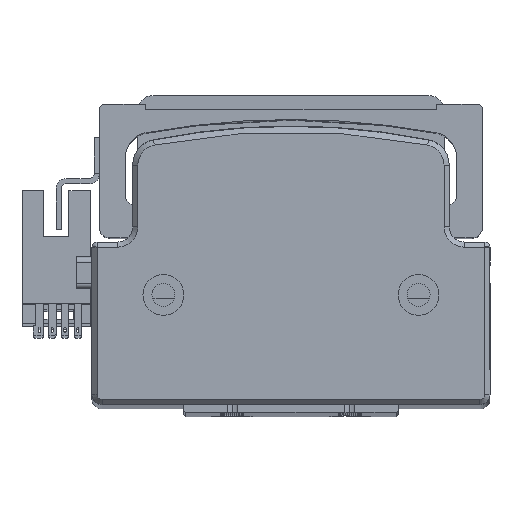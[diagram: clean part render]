
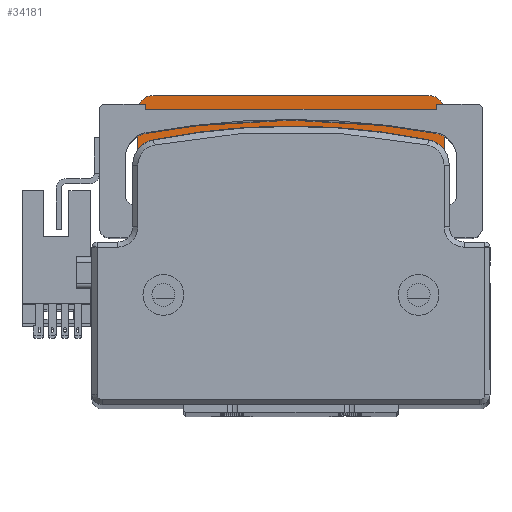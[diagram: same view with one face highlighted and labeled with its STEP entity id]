
A CAD part, top view. The second image highlights one B-rep face of the part: STEP entity #34181.
In plain terms, the highlighted planar face has unit normal (0, 0, 1) as drawn and (0, 0, -1) by its records, which use the part's own axes.
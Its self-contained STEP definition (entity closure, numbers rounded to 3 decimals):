
#57 = VECTOR ( 'NONE', #29988, 1000. ) ;
#118 = ORIENTED_EDGE ( 'NONE', *, *, #7711, .F. ) ;
#782 = LINE ( 'NONE', #31894, #28355 ) ;
#1184 = AXIS2_PLACEMENT_3D ( 'NONE', #35274, #13839, #38970 ) ;
#1301 = DIRECTION ( 'NONE',  ( -1., 0., 0. ) ) ;
#1765 = DIRECTION ( 'NONE',  ( 0., 0., -1. ) ) ;
#2041 = VERTEX_POINT ( 'NONE', #44358 ) ;
#2060 = DIRECTION ( 'NONE',  ( -1., 0., 0. ) ) ;
#2608 = DIRECTION ( 'NONE',  ( 1., 0., 0. ) ) ;
#2926 = VERTEX_POINT ( 'NONE', #44649 ) ;
#3503 = VECTOR ( 'NONE', #7310, 1000. ) ;
#3684 = VERTEX_POINT ( 'NONE', #19969 ) ;
#3685 = AXIS2_PLACEMENT_3D ( 'NONE', #7430, #32608, #11076 ) ;
#4707 = EDGE_CURVE ( 'NONE', #3684, #12320, #28783, .T. ) ;
#5129 = CIRCLE ( 'NONE', #27933, 3. ) ;
#5386 = ORIENTED_EDGE ( 'NONE', *, *, #11981, .T. ) ;
#5464 = DIRECTION ( 'NONE',  ( 0., -1., 0. ) ) ;
#5802 = CARTESIAN_POINT ( 'NONE',  ( 27., 30., 44. ) ) ;
#5871 = CARTESIAN_POINT ( 'NONE',  ( 26.399, 24.749, 44. ) ) ;
#5902 = FACE_BOUND ( 'NONE', #27864, .T. ) ;
#6269 = CARTESIAN_POINT ( 'NONE',  ( -27., 27., 44. ) ) ;
#6876 = ORIENTED_EDGE ( 'NONE', *, *, #43862, .T. ) ;
#7149 = EDGE_CURVE ( 'NONE', #27150, #45594, #13866, .T. ) ;
#7310 = DIRECTION ( 'NONE',  ( 0., 1., 0. ) ) ;
#7430 = CARTESIAN_POINT ( 'NONE',  ( 24.749, 24.749, 44. ) ) ;
#7711 = EDGE_CURVE ( 'NONE', #38582, #13733, #782, .T. ) ;
#7745 = VERTEX_POINT ( 'NONE', #32219 ) ;
#7807 = AXIS2_PLACEMENT_3D ( 'NONE', #9310, #34449, #12965 ) ;
#8323 = AXIS2_PLACEMENT_3D ( 'NONE', #6269, #31415, #9882 ) ;
#9082 = CARTESIAN_POINT ( 'NONE',  ( -30., -30., 44. ) ) ;
#9181 = ORIENTED_EDGE ( 'NONE', *, *, #20064, .F. ) ;
#9310 = CARTESIAN_POINT ( 'NONE',  ( -24.749, 24.749, 44. ) ) ;
#9882 = DIRECTION ( 'NONE',  ( 1., 0., 0. ) ) ;
#10523 = ORIENTED_EDGE ( 'NONE', *, *, #4707, .F. ) ;
#10833 = ORIENTED_EDGE ( 'NONE', *, *, #7149, .F. ) ;
#11042 = EDGE_CURVE ( 'NONE', #2041, #38607, #38425, .T. ) ;
#11076 = DIRECTION ( 'NONE',  ( 1., 0., 0. ) ) ;
#11981 = EDGE_CURVE ( 'NONE', #14632, #12320, #41775, .T. ) ;
#12320 = VERTEX_POINT ( 'NONE', #34036 ) ;
#12965 = DIRECTION ( 'NONE',  ( 1., 0., 0. ) ) ;
#13249 = FACE_BOUND ( 'NONE', #14855, .T. ) ;
#13551 = CARTESIAN_POINT ( 'NONE',  ( -39.764, 17., 44. ) ) ;
#13652 = ORIENTED_EDGE ( 'NONE', *, *, #28522, .F. ) ;
#13733 = VERTEX_POINT ( 'NONE', #17178 ) ;
#13839 = DIRECTION ( 'NONE',  ( 0., 0., -1. ) ) ;
#13866 = CIRCLE ( 'NONE', #7807, 1.65 ) ;
#13882 = DIRECTION ( 'NONE',  ( 0., 1., 0. ) ) ;
#13945 = CARTESIAN_POINT ( 'NONE',  ( 0., 0., 44. ) ) ;
#14632 = VERTEX_POINT ( 'NONE', #42797 ) ;
#14855 = EDGE_LOOP ( 'NONE', ( #26544, #15234 ) ) ;
#15234 = ORIENTED_EDGE ( 'NONE', *, *, #40952, .F. ) ;
#16681 = DIRECTION ( 'NONE',  ( 0., 0., -1. ) ) ;
#16897 = EDGE_CURVE ( 'NONE', #31252, #14632, #44099, .T. ) ;
#17178 = CARTESIAN_POINT ( 'NONE',  ( 30., 27., 44. ) ) ;
#17438 = LINE ( 'NONE', #24278, #36480 ) ;
#17587 = DIRECTION ( 'NONE',  ( -1., 0., 0. ) ) ;
#18564 = EDGE_CURVE ( 'NONE', #43504, #2926, #35413, .T. ) ;
#19173 = DIRECTION ( 'NONE',  ( 0., 0., 1. ) ) ;
#19378 = CARTESIAN_POINT ( 'NONE',  ( 19., -30., 44. ) ) ;
#19969 = CARTESIAN_POINT ( 'NONE',  ( -27., 17., 44. ) ) ;
#20064 = EDGE_CURVE ( 'NONE', #45594, #27150, #45262, .T. ) ;
#20239 = CIRCLE ( 'NONE', #25967, 3. ) ;
#20741 = EDGE_CURVE ( 'NONE', #2041, #27297, #45710, .T. ) ;
#21657 = EDGE_CURVE ( 'NONE', #3684, #38607, #5129, .T. ) ;
#21728 = CARTESIAN_POINT ( 'NONE',  ( -19., 30., 44. ) ) ;
#22812 = PLANE ( 'NONE',  #28717 ) ;
#22845 = CARTESIAN_POINT ( 'NONE',  ( -39.764, 17., 44. ) ) ;
#22957 = DIRECTION ( 'NONE',  ( 0., 0., -1. ) ) ;
#23437 = CARTESIAN_POINT ( 'NONE',  ( 27., 27., 44. ) ) ;
#23732 = DIRECTION ( 'NONE',  ( 0., 0., 1. ) ) ;
#24187 = CARTESIAN_POINT ( 'NONE',  ( -26.399, 24.749, 44. ) ) ;
#24278 = CARTESIAN_POINT ( 'NONE',  ( 19., 30., 44. ) ) ;
#24410 = EDGE_LOOP ( 'NONE', ( #5386, #10523, #27454, #43121, #27901, #42475, #39644, #118, #6876, #13652, #29906, #41057 ) ) ;
#24782 = AXIS2_PLACEMENT_3D ( 'NONE', #13945, #39072, #17587 ) ;
#24805 = VECTOR ( 'NONE', #35007, 1000. ) ;
#25672 = LINE ( 'NONE', #28139, #34059 ) ;
#25967 = AXIS2_PLACEMENT_3D ( 'NONE', #23437, #1765, #26972 ) ;
#26544 = ORIENTED_EDGE ( 'NONE', *, *, #18564, .F. ) ;
#26948 = CARTESIAN_POINT ( 'NONE',  ( -30., 14., 44. ) ) ;
#26972 = DIRECTION ( 'NONE',  ( 1., 0., 0. ) ) ;
#27029 = EDGE_CURVE ( 'NONE', #45296, #13733, #20239, .T. ) ;
#27150 = VERTEX_POINT ( 'NONE', #24187 ) ;
#27297 = VERTEX_POINT ( 'NONE', #28652 ) ;
#27440 = CARTESIAN_POINT ( 'NONE',  ( 19., 17., 44. ) ) ;
#27454 = ORIENTED_EDGE ( 'NONE', *, *, #21657, .T. ) ;
#27864 = EDGE_LOOP ( 'NONE', ( #9181, #10833 ) ) ;
#27901 = ORIENTED_EDGE ( 'NONE', *, *, #20741, .T. ) ;
#27933 = AXIS2_PLACEMENT_3D ( 'NONE', #45152, #23732, #2060 ) ;
#28139 = CARTESIAN_POINT ( 'NONE',  ( 19., 30., 44. ) ) ;
#28355 = VECTOR ( 'NONE', #13882, 1000. ) ;
#28522 = EDGE_CURVE ( 'NONE', #45823, #7745, #42722, .T. ) ;
#28652 = CARTESIAN_POINT ( 'NONE',  ( -27., 30., 44. ) ) ;
#28717 = AXIS2_PLACEMENT_3D ( 'NONE', #19378, #22957, #1301 ) ;
#28783 = LINE ( 'NONE', #22845, #57 ) ;
#29359 = AXIS2_PLACEMENT_3D ( 'NONE', #40628, #19173, #44177 ) ;
#29906 = ORIENTED_EDGE ( 'NONE', *, *, #46578, .T. ) ;
#29988 = DIRECTION ( 'NONE',  ( 1., 0., 0. ) ) ;
#30322 = EDGE_CURVE ( 'NONE', #27297, #45296, #17438, .T. ) ;
#31252 = VERTEX_POINT ( 'NONE', #41552 ) ;
#31415 = DIRECTION ( 'NONE',  ( 0., 0., -1. ) ) ;
#31894 = CARTESIAN_POINT ( 'NONE',  ( 30., -30., 44. ) ) ;
#32219 = CARTESIAN_POINT ( 'NONE',  ( 27., 17., 44. ) ) ;
#32608 = DIRECTION ( 'NONE',  ( 0., 0., -1. ) ) ;
#34036 = CARTESIAN_POINT ( 'NONE',  ( -19., 17., 44. ) ) ;
#34059 = VECTOR ( 'NONE', #35322, 1000. ) ;
#34181 = ADVANCED_FACE ( 'NONE', ( #40825, #5902, #13249 ), #22812, .T. ) ;
#34449 = DIRECTION ( 'NONE',  ( 0., 0., -1. ) ) ;
#35007 = DIRECTION ( 'NONE',  ( 1., 0., 0. ) ) ;
#35274 = CARTESIAN_POINT ( 'NONE',  ( 24.749, 24.749, 44. ) ) ;
#35322 = DIRECTION ( 'NONE',  ( 0., -1., 0. ) ) ;
#35413 = CIRCLE ( 'NONE', #3685, 1.65 ) ;
#36480 = VECTOR ( 'NONE', #2608, 1000. ) ;
#37300 = VECTOR ( 'NONE', #5464, 1000. ) ;
#38129 = CARTESIAN_POINT ( 'NONE',  ( -24.749, 24.749, 44. ) ) ;
#38425 = LINE ( 'NONE', #9082, #37300 ) ;
#38582 = VERTEX_POINT ( 'NONE', #41264 ) ;
#38607 = VERTEX_POINT ( 'NONE', #26948 ) ;
#38970 = DIRECTION ( 'NONE',  ( 1., 0., 0. ) ) ;
#39072 = DIRECTION ( 'NONE',  ( 0., 0., 1. ) ) ;
#39644 = ORIENTED_EDGE ( 'NONE', *, *, #27029, .T. ) ;
#40384 = CARTESIAN_POINT ( 'NONE',  ( -23.099, 24.749, 44. ) ) ;
#40628 = CARTESIAN_POINT ( 'NONE',  ( 27., 14., 44. ) ) ;
#40825 = FACE_OUTER_BOUND ( 'NONE', #24410, .T. ) ;
#40952 = EDGE_CURVE ( 'NONE', #2926, #43504, #43269, .T. ) ;
#41057 = ORIENTED_EDGE ( 'NONE', *, *, #16897, .T. ) ;
#41264 = CARTESIAN_POINT ( 'NONE',  ( 30., 14., 44. ) ) ;
#41552 = CARTESIAN_POINT ( 'NONE',  ( 19., 0., 44. ) ) ;
#41731 = AXIS2_PLACEMENT_3D ( 'NONE', #38129, #16681, #41747 ) ;
#41747 = DIRECTION ( 'NONE',  ( 1., 0., 0. ) ) ;
#41775 = LINE ( 'NONE', #21728, #3503 ) ;
#42212 = CIRCLE ( 'NONE', #29359, 3. ) ;
#42475 = ORIENTED_EDGE ( 'NONE', *, *, #30322, .T. ) ;
#42722 = LINE ( 'NONE', #13551, #24805 ) ;
#42797 = CARTESIAN_POINT ( 'NONE',  ( -19., 0., 44. ) ) ;
#43121 = ORIENTED_EDGE ( 'NONE', *, *, #11042, .F. ) ;
#43269 = CIRCLE ( 'NONE', #1184, 1.65 ) ;
#43504 = VERTEX_POINT ( 'NONE', #5871 ) ;
#43862 = EDGE_CURVE ( 'NONE', #38582, #7745, #42212, .T. ) ;
#44099 = CIRCLE ( 'NONE', #24782, 19. ) ;
#44177 = DIRECTION ( 'NONE',  ( -1., 0., 0. ) ) ;
#44358 = CARTESIAN_POINT ( 'NONE',  ( -30., 27., 44. ) ) ;
#44649 = CARTESIAN_POINT ( 'NONE',  ( 23.099, 24.749, 44. ) ) ;
#45152 = CARTESIAN_POINT ( 'NONE',  ( -27., 14., 44. ) ) ;
#45262 = CIRCLE ( 'NONE', #41731, 1.65 ) ;
#45296 = VERTEX_POINT ( 'NONE', #5802 ) ;
#45594 = VERTEX_POINT ( 'NONE', #40384 ) ;
#45710 = CIRCLE ( 'NONE', #8323, 3. ) ;
#45823 = VERTEX_POINT ( 'NONE', #27440 ) ;
#46578 = EDGE_CURVE ( 'NONE', #45823, #31252, #25672, .T. ) ;
